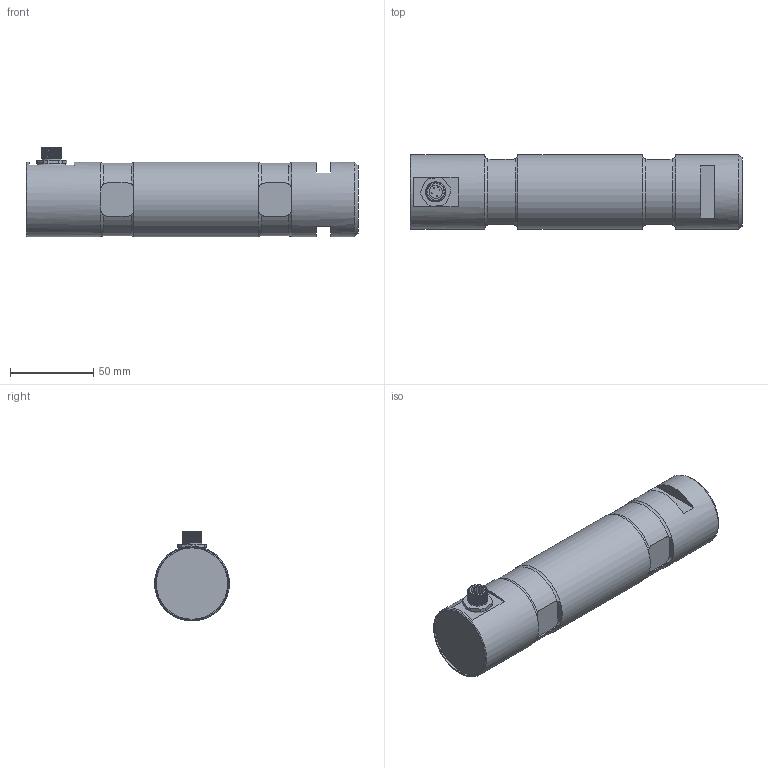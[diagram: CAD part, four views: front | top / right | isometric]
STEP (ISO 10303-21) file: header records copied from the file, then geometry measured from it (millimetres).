
FILE_DESCRIPTION(/* description */ ('Alibre Inc.'),/* implementation_level */ '2;1');
FILE_NAME(/* name */ 'export0',/* time_stamp */ '2015-11-05T10:09:01+01:00',/* author */ (''),/* organization */ (''),/* preprocessor_version */ 'ST-DEVELOPER v14',/* originating_system */ 'Alibre',/* authorisation */ '');
FILE_SCHEMA (('CONFIG_CONTROL_DESIGN'));
Length unit declared in the file: centimetre
Products named in the file (6): ID_1; ID_2; ID_3; ID_4
Bounding box: 200 x 45 x 54.12 mm (x, y, z)
Volume: 304497.5 mm3; surface area: 36802.2 mm2
Topology: 8 solids, 8 shells, 169 faces, 379 edges, 233 vertices
Faces by surface type: plane 73, cylinder 58, bspline 23, torus 9, cone 6
Full cylindrical faces by diameter (mm): 0.5 x8, 8 x2, 10 x3, 11.5 x1, 13 x1, 14.376 x1, 43 x1, 45 x3
Entity records: 16206 total; most frequent: CARTESIAN_POINT 12574, ORIENTED_EDGE 686, DIRECTION 455, EDGE_CURVE 338, VERTEX_POINT 221, FACE_BOUND 212, EDGE_LOOP 211, AXIS2_PLACEMENT_3D 203
